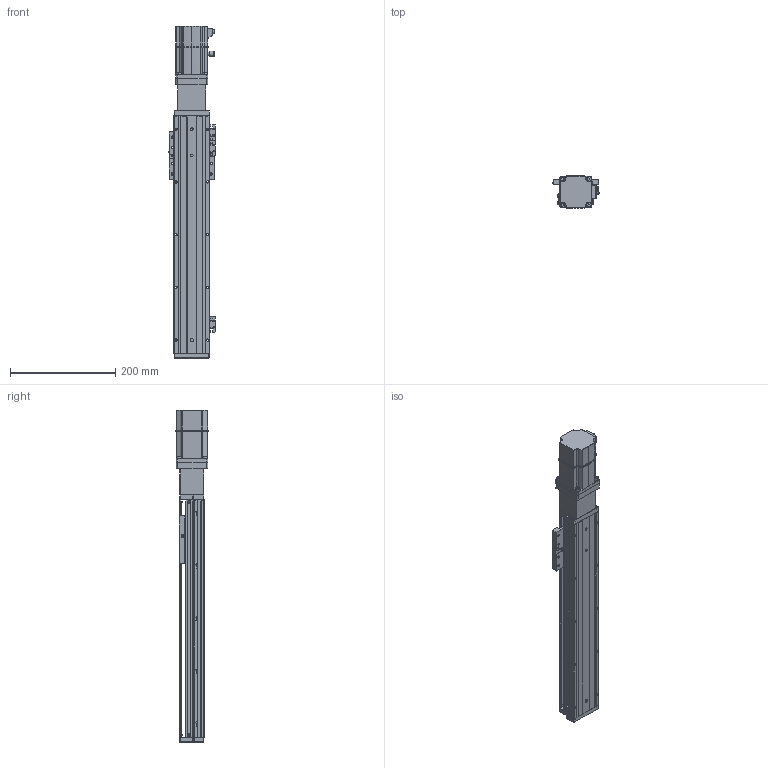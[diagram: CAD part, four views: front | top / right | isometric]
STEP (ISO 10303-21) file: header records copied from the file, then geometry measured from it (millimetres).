
FILE_DESCRIPTION (( 'STEP AP203' ), '1' );
FILE_NAME ('KTHAL60-300-BC-M20-C4L.step', '2022-12-16T01:57:57', ( '微软用户' ), ( '微软中国' ), 'SwSTEP 2.0', 'SolidWorks 2020', '' );
FILE_SCHEMA (( 'CONFIG_CONTROL_DESIGN' ));
Length unit declared in the file: millimetre
Products named in the file (18): CTHA60-013; CTHA60-021; CTHA60-006-3_M20B; KTHA60-004; GBT 70.1-M4×16; _X2_4E0983F1_X0_200W_1; KTHA60-005; GBT77-2000M3-3; KTHAL60-300-BC-M20-C4L; KTHA60-001_450; GB¨uT 70.2-M3¡Á5_M3¡Á6; GBT 70.1-M3℅6; KTHLA60-002; GBT 70.3-M3℅6; CTHA60-016; EE_SX911P_R; CTHA60-027; CTHA60-017
Assembly tree (48 placements, depth 2):
  KTHAL60-300-BC-M20-C4L
    KTHA60-001_450
    KTHLA60-002
    KTHA60-004
    KTHA60-005
    GB¨uT 70.2-M3¡Á5_M3¡Á6  x5
    GBT 70.3-M3℅6  x6
    EE_SX911P_R  x3
    CTHA60-017  x3
    CTHA60-021  x2
    GBT 70.1-M4×16  x8
    GBT77-2000M3-3  x6
    GBT 70.1-M3℅6  x6
    CTHA60-016
    CTHA60-027
    CTHA60-013
    CTHA60-006-3_M20B
    _X2_4E0983F1_X0_200W_1
Bounding box: 87.82 x 62.42 x 629.7 mm (x, y, z)
Volume: 1342135.3 mm3; surface area: 311597.6 mm2
Topology: 51 solids, 51 shells, 2266 faces, 5355 edges, 3277 vertices
Faces by surface type: plane 1225, cylinder 591, cone 289, torus 78, bspline 69, sphere 14
Entity records: 40481 total; most frequent: CARTESIAN_POINT 7830, DIRECTION 6348, ORIENTED_EDGE 6106, EDGE_CURVE 3053, AXIS2_PLACEMENT_3D 2187, LINE 1974, VECTOR 1974, VERTEX_POINT 1899
